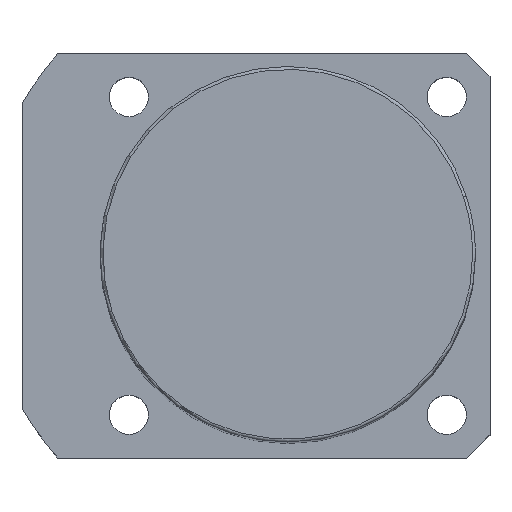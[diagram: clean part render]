
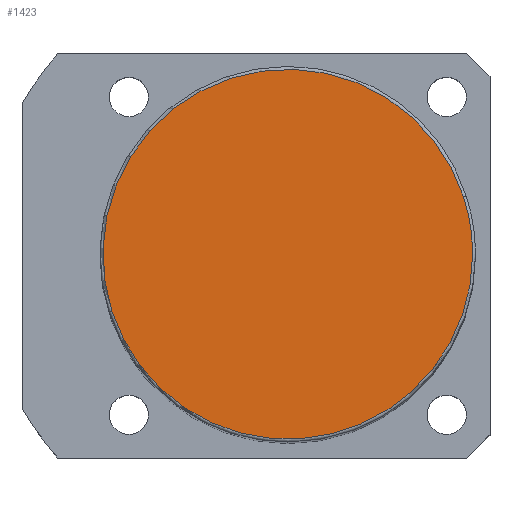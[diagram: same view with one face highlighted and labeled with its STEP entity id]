
A CAD part, top view. The second image highlights one B-rep face of the part: STEP entity #1423.
In plain terms, the highlighted planar face has unit normal (0, 0, 1).
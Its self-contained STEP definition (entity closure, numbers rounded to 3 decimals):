
#1356=CARTESIAN_POINT('',(30.434,9.889,176.0));
#1357=VERTEX_POINT('',#1356);
#1375=CARTESIAN_POINT('',(-30.434,-9.889,176.0));
#1376=VERTEX_POINT('',#1375);
#1384=CARTESIAN_POINT('',(0.0,0.0,176.0));
#1385=DIRECTION('',(0.0,0.0,1.0));
#1386=DIRECTION('',(1.0,0.0,0.0));
#1387=AXIS2_PLACEMENT_3D('',#1384,#1385,#1386);
#1388=CIRCLE('',#1387,32.0);
#1389=EDGE_CURVE('no 1923',#1357,#1376,#1388,.T.);
#1399=CARTESIAN_POINT('',(32.0,0.0,176.0));
#1400=VERTEX_POINT('',#1399);
#1401=CARTESIAN_POINT('',(0.0,0.0,176.0));
#1402=DIRECTION('',(0.0,0.0,1.0));
#1403=DIRECTION('',(1.0,0.0,0.0));
#1404=AXIS2_PLACEMENT_3D('',#1401,#1402,#1403);
#1405=CIRCLE('',#1404,32.0);
#1406=EDGE_CURVE('no 1932',#1400,#1357,#1405,.T.);
#1407=ORIENTED_EDGE('',*,*,#1406,.T.);
#1408=ORIENTED_EDGE('',*,*,#1389,.T.);
#1409=CARTESIAN_POINT('',(0.0,0.0,176.0));
#1410=DIRECTION('',(0.0,0.0,1.0));
#1411=DIRECTION('',(1.0,0.0,0.0));
#1412=AXIS2_PLACEMENT_3D('',#1409,#1410,#1411);
#1413=CIRCLE('',#1412,32.0);
#1414=EDGE_CURVE('no 1938',#1376,#1400,#1413,.T.);
#1415=ORIENTED_EDGE('',*,*,#1414,.T.);
#1416=EDGE_LOOP('',(#1407,#1408,#1415));
#1417=FACE_OUTER_BOUND('',#1416,.T.);
#1418=CARTESIAN_POINT('',(0.0,0.0,176.0));
#1419=DIRECTION('',(0.0,0.0,1.0));
#1420=DIRECTION('',(1.0,0.0,0.0));
#1421=AXIS2_PLACEMENT_3D('',#1418,#1419,#1420);
#1422=PLANE('',#1421);
#1423=ADVANCED_FACE('no 1925',(#1417),#1422,.T.);
